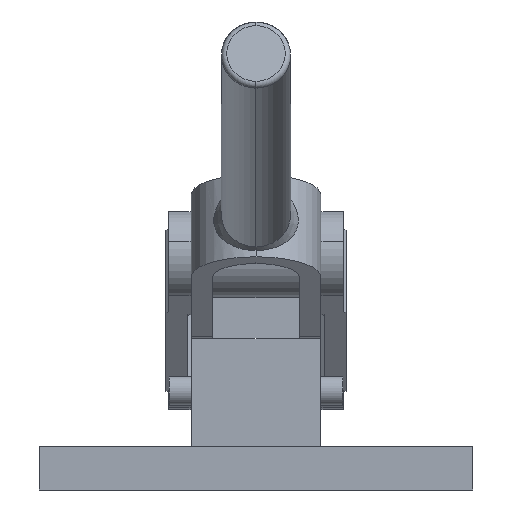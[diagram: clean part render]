
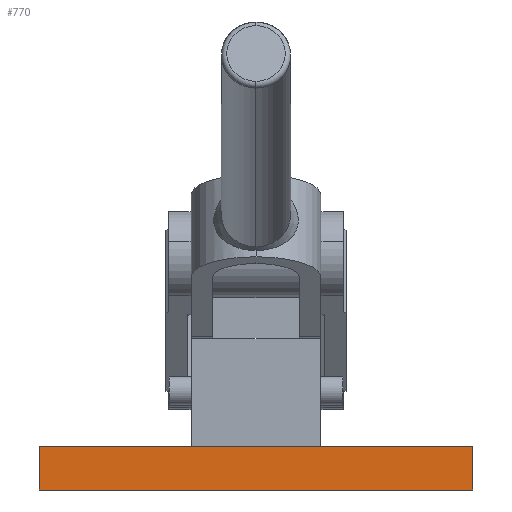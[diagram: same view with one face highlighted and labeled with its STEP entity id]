
A CAD part, left-side view. The second image highlights one B-rep face of the part: STEP entity #770.
In plain terms, the highlighted planar face has unit normal (-1, 0, 0).
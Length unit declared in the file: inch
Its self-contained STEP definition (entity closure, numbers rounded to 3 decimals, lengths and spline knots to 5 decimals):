
#770 = ADVANCED_FACE( '', ( #1054 ), #1055, .T. );
#1054 = FACE_OUTER_BOUND( '', #1367, .T. );
#1055 = PLANE( '', #1368 );
#1367 = EDGE_LOOP( '', ( #2429, #2430, #2431, #2432 ) );
#1368 = AXIS2_PLACEMENT_3D( '', #2433, #2434, #2435 );
#2429 = ORIENTED_EDGE( '', *, *, #2943, .T. );
#2430 = ORIENTED_EDGE( '', *, *, #2941, .F. );
#2431 = ORIENTED_EDGE( '', *, *, #2944, .F. );
#2432 = ORIENTED_EDGE( '', *, *, #2925, .T. );
#2433 = CARTESIAN_POINT( '', ( -1.75, 1.25, -0.25 ) );
#2434 = DIRECTION( '', ( -1., 0., 0. ) );
#2435 = DIRECTION( '', ( 0., 0., 1. ) );
#2925 = EDGE_CURVE( '', #3521, #3519, #3522, .T. );
#2941 = EDGE_CURVE( '', #3545, #3547, #3548, .T. );
#2943 = EDGE_CURVE( '', #3519, #3547, #3550, .T. );
#2944 = EDGE_CURVE( '', #3521, #3545, #3551, .T. );
#3519 = VERTEX_POINT( '', #4384 );
#3521 = VERTEX_POINT( '', #4387 );
#3522 = LINE( '', #4388, #4389 );
#3545 = VERTEX_POINT( '', #4426 );
#3547 = VERTEX_POINT( '', #4429 );
#3548 = LINE( '', #4430, #4431 );
#3550 = LINE( '', #4434, #4435 );
#3551 = LINE( '', #4436, #4437 );
#4384 = CARTESIAN_POINT( '', ( -1.75, -1.25, -0.25 ) );
#4387 = CARTESIAN_POINT( '', ( -1.75, 1.25, -0.25 ) );
#4388 = CARTESIAN_POINT( '', ( -1.75, 1.25, -0.25 ) );
#4389 = VECTOR( '', #5152, 1. );
#4426 = CARTESIAN_POINT( '', ( -1.75, 1.25, 0. ) );
#4429 = CARTESIAN_POINT( '', ( -1.75, -1.25, 0. ) );
#4430 = CARTESIAN_POINT( '', ( -1.75, 1.25, 0. ) );
#4431 = VECTOR( '', #5168, 1. );
#4434 = CARTESIAN_POINT( '', ( -1.75, -1.25, -0.25 ) );
#4435 = VECTOR( '', #5170, 1. );
#4436 = CARTESIAN_POINT( '', ( -1.75, 1.25, -0.25 ) );
#4437 = VECTOR( '', #5171, 1. );
#5152 = DIRECTION( '', ( 0., -1., 0. ) );
#5168 = DIRECTION( '', ( 0., -1., 0. ) );
#5170 = DIRECTION( '', ( 0., 0., 1. ) );
#5171 = DIRECTION( '', ( 0., 0., 1. ) );
